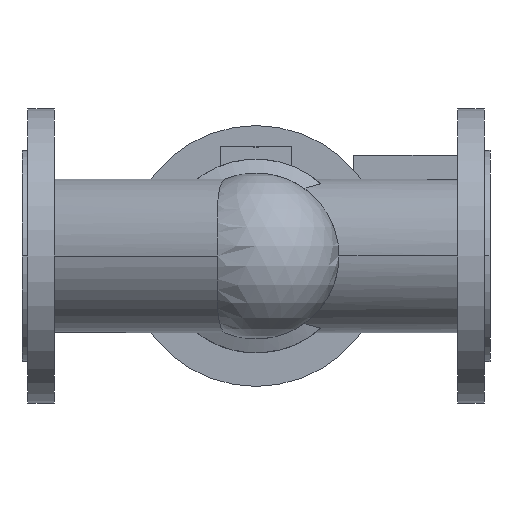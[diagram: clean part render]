
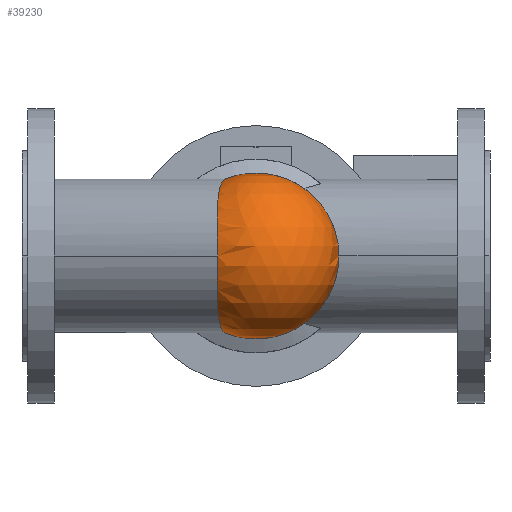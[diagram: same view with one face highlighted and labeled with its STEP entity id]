
A CAD part, front view. The second image highlights one B-rep face of the part: STEP entity #39230.
In plain terms, the highlighted spherical face has radius 62 mm.
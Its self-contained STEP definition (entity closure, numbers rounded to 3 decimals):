
#21030=CARTESIAN_POINT('',(0.,-52.,0.));
#21040=DIRECTION('',(0.,1.,0.));
#21050=DIRECTION('',(1.,0.,0.));
#21060=AXIS2_PLACEMENT_3D('',#21030,#21040,#21050);
#21070=CIRCLE('',#21060,62.);
#21080=CARTESIAN_POINT('',(-23.555,-52.,57.351));
#21090=VERTEX_POINT('',#21080);
#21100=CARTESIAN_POINT('',(0.,-52.,62.));
#21110=VERTEX_POINT('',#21100);
#21120=EDGE_CURVE('',#21090,#21110,#21070,.T.);
#22530=CARTESIAN_POINT('',(-23.555,-52.,-57.351));
#22540=VERTEX_POINT('',#22530);
#22570=CARTESIAN_POINT('',(0.,-52.,-62.));
#22580=VERTEX_POINT('',#22570);
#22590=EDGE_CURVE('',#22580,#22540,#21070,.T.);
#22610=EDGE_CURVE('',#21110,#22580,#21070,.T.);
#30230=CARTESIAN_POINT('',(-28.63,-106.994,
0.));
#30240=VERTEX_POINT('',#30230);
#30270=CARTESIAN_POINT('',(-23.555,-52.,57.351));
#30280=CARTESIAN_POINT('',(-23.637,-52.47,
57.317));
#30290=CARTESIAN_POINT('',(-23.719,-52.941,
57.278));
#30300=CARTESIAN_POINT('',(-24.125,-55.281,
57.051));
#30310=CARTESIAN_POINT('',(-24.443,-57.165,
56.777));
#30320=CARTESIAN_POINT('',(-25.06,-60.927,
56.036));
#30330=CARTESIAN_POINT('',(-25.359,-62.805,
55.57));
#30340=CARTESIAN_POINT('',(-25.929,-66.522,
54.449));
#30350=CARTESIAN_POINT('',(-26.201,-68.361,
53.793));
#30360=CARTESIAN_POINT('',(-26.71,-71.968,
52.304));
#30370=CARTESIAN_POINT('',(-26.949,-73.738,
51.469));
#30380=CARTESIAN_POINT('',(-27.387,-77.181,
49.636));
#30390=CARTESIAN_POINT('',(-27.587,-78.854,
48.637));
#30400=CARTESIAN_POINT('',(-27.947,-82.076,
46.499));
#30410=CARTESIAN_POINT('',(-28.106,-83.626,
45.359));
#30420=CARTESIAN_POINT('',(-28.383,-86.582,
42.967));
#30430=CARTESIAN_POINT('',(-28.5,-87.987,
41.715));
#30440=CARTESIAN_POINT('',(-28.694,-90.608,
39.159));
#30450=CARTESIAN_POINT('',(-28.774,-91.872,
37.813));
#30460=CARTESIAN_POINT('',(-28.899,-94.298,
34.975));
#30470=CARTESIAN_POINT('',(-28.945,-95.459,
33.483));
#30480=CARTESIAN_POINT('',(-29.002,-97.65,
30.373));
#30490=CARTESIAN_POINT('',(-29.014,-98.68,
28.756));
#30500=CARTESIAN_POINT('',(-29.01,-100.58,
25.419));
#30510=CARTESIAN_POINT('',(-28.994,-101.451,
23.699));
#30520=CARTESIAN_POINT('',(-28.942,-103.015,
20.187));
#30530=CARTESIAN_POINT('',(-28.907,-103.709,
18.392));
#30540=CARTESIAN_POINT('',(-28.831,-104.903,
14.755));
#30550=CARTESIAN_POINT('',(-28.79,-105.404,
12.913));
#30560=CARTESIAN_POINT('',(-28.717,-106.204,
9.212));
#30570=CARTESIAN_POINT('',(-28.685,-106.503,
7.354));
#30580=CARTESIAN_POINT('',(-28.642,-106.898,
3.655));
#30590=CARTESIAN_POINT('',(-28.63,-106.994,
1.814));
#30600=CARTESIAN_POINT('',(-28.63,-106.994,
0.));
#30610=CARTESIAN_POINT('',(-28.63,-106.994,
-1.814));
#30620=CARTESIAN_POINT('',(-28.642,-106.898,
-3.655));
#30630=CARTESIAN_POINT('',(-28.685,-106.503,
-7.354));
#30640=CARTESIAN_POINT('',(-28.717,-106.204,
-9.212));
#30650=CARTESIAN_POINT('',(-28.79,-105.404,
-12.913));
#30660=CARTESIAN_POINT('',(-28.831,-104.903,
-14.755));
#30670=CARTESIAN_POINT('',(-28.907,-103.709,
-18.392));
#30680=CARTESIAN_POINT('',(-28.942,-103.015,
-20.187));
#30690=CARTESIAN_POINT('',(-28.994,-101.451,
-23.699));
#30700=CARTESIAN_POINT('',(-29.01,-100.58,
-25.419));
#30710=CARTESIAN_POINT('',(-29.014,-98.68,
-28.756));
#30720=CARTESIAN_POINT('',(-29.002,-97.65,
-30.373));
#30730=CARTESIAN_POINT('',(-28.945,-95.459,
-33.483));
#30740=CARTESIAN_POINT('',(-28.899,-94.298,
-34.975));
#30750=CARTESIAN_POINT('',(-28.774,-91.872,
-37.813));
#30760=CARTESIAN_POINT('',(-28.694,-90.608,
-39.159));
#30770=CARTESIAN_POINT('',(-28.5,-87.987,
-41.715));
#30780=CARTESIAN_POINT('',(-28.383,-86.582,
-42.967));
#30790=CARTESIAN_POINT('',(-28.106,-83.626,
-45.359));
#30800=CARTESIAN_POINT('',(-27.947,-82.076,
-46.499));
#30810=CARTESIAN_POINT('',(-27.587,-78.854,
-48.637));
#30820=CARTESIAN_POINT('',(-27.387,-77.181,
-49.636));
#30830=CARTESIAN_POINT('',(-26.949,-73.738,
-51.469));
#30840=CARTESIAN_POINT('',(-26.71,-71.968,
-52.304));
#30850=CARTESIAN_POINT('',(-26.201,-68.361,
-53.793));
#30860=CARTESIAN_POINT('',(-25.929,-66.522,
-54.449));
#30870=CARTESIAN_POINT('',(-25.359,-62.805,
-55.57));
#30880=CARTESIAN_POINT('',(-25.06,-60.927,
-56.036));
#30890=CARTESIAN_POINT('',(-24.443,-57.165,
-56.777));
#30900=CARTESIAN_POINT('',(-24.125,-55.281,
-57.051));
#30910=CARTESIAN_POINT('',(-23.719,-52.941,
-57.278));
#30920=CARTESIAN_POINT('',(-23.637,-52.47,
-57.317));
#30930=CARTESIAN_POINT('',(-23.555,-52.,-57.351));
#30940=B_SPLINE_CURVE_WITH_KNOTS('',3,(#30270,#30280,#30290,#30300,
#30310,#30320,#30330,#30340,#30350,#30360,#30370,#30380,#30390,#30400,
#30410,#30420,#30430,#30440,#30450,#30460,#30470,#30480,#30490,#30500,
#30510,#30520,#30530,#30540,#30550,#30560,#30570,#30580,#30590,#30600,
#30610,#30620,#30630,#30640,#30650,#30660,#30670,#30680,#30690,#30700,
#30710,#30720,#30730,#30740,#30750,#30760,#30770,#30780,#30790,#30800,
#30810,#30820,#30830,#30840,#30850,#30860,#30870,#30880,#30890,#30900,
#30910,#30920,#30930),.UNSPECIFIED.,.F.,.F.,(4,2,2,2,2,2,2,2,2,2,2,2,2,2
,2,2,3,2,2,2,2,2,2,2,2,2,2,2,2,2,2,2,4),(266.402,
267.804,273.359,278.915,284.47,
290.025,295.58,301.136,306.691,
312.133,317.576,323.018,328.461,
333.903,339.346,344.788,350.23,
355.673,361.115,366.558,372.,
377.443,382.885,388.328,393.77,
399.325,404.881,410.436,415.991,
421.546,427.102,432.657,434.059),
.UNSPECIFIED.);
#30950=EDGE_CURVE('',#30240,#22540,#30940,.T.);
#39100=CARTESIAN_POINT('',(0.,-52.,0.));
#39110=DIRECTION('',(0.,0.,1.));
#39120=DIRECTION('',(1.,0.,0.));
#39130=AXIS2_PLACEMENT_3D('',#39100,#39110,#39120);
#39140=SPHERICAL_SURFACE('',#39130,62.);
#39150=EDGE_CURVE('',#21090,#30240,#30940,.T.);
#39160=ORIENTED_EDGE('',*,*,#39150,.T.);
#39170=ORIENTED_EDGE('',*,*,#21120,.F.);
#39180=ORIENTED_EDGE('',*,*,#22610,.F.);
#39190=ORIENTED_EDGE('',*,*,#22590,.F.);
#39200=ORIENTED_EDGE('',*,*,#30950,.T.);
#39210=EDGE_LOOP('',(#39200,#39190,#39180,#39170,#39160));
#39220=FACE_OUTER_BOUND('',#39210,.T.);
#39230=ADVANCED_FACE('',(#39220),#39140,.T.);
